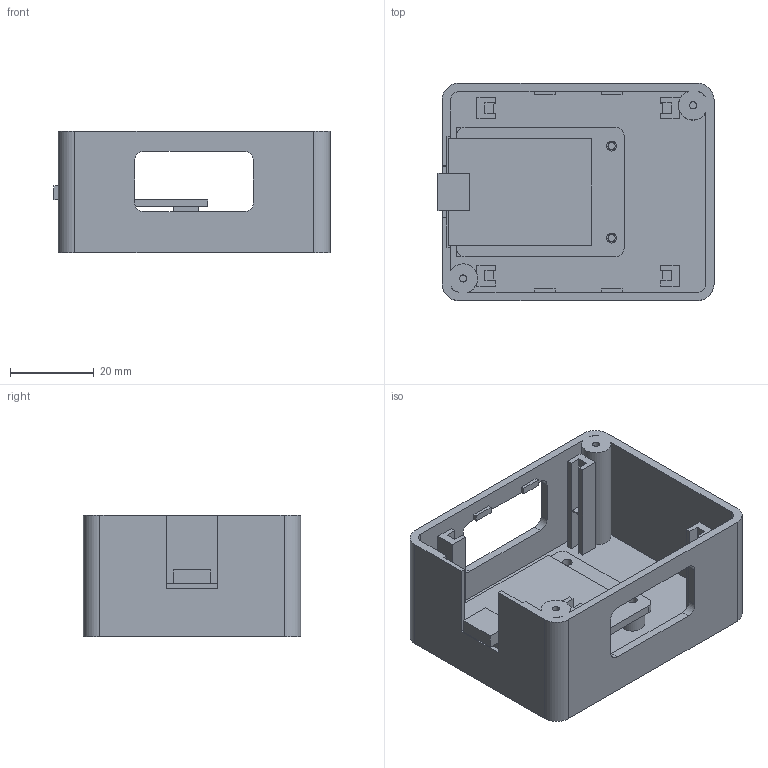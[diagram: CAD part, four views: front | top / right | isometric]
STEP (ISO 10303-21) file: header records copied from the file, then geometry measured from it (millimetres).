
FILE_DESCRIPTION(('Open CASCADE Model'),'2;1');
FILE_NAME('Open CASCADE Shape Model','2026-11-08T17:26:57',('Author'),( 'Open CASCADE'),'Open CASCADE STEP processor 7.8','Open CASCADE 7.8' ,'Unknown');
FILE_SCHEMA(('AUTOMOTIVE_DESIGN { 1 0 10303 214 1 1 1 1 }'));
Length unit declared in the file: millimetre
Products named in the file (5): Enveloppes_nominales_non_imprimables; socle; support_ESP; carte_nominale; USB_nominal
Assembly tree (4 placements, depth 2):
  Enveloppes_nominales_non_imprimables
    socle
    support_ESP
    carte_nominale
    USB_nominal
Bounding box: 66 x 52 x 29 mm (x, y, z)
Volume: 23823.5 mm3; surface area: 25280 mm2
Topology: 4 solids, 4 shells, 192 faces, 504 edges, 336 vertices
Faces by surface type: plane 156, cylinder 36
Full cylindrical faces by diameter (mm): 1.7 x4, 2.4 x2, 6 x2
Entity records: 12239 total; most frequent: CARTESIAN_POINT 2516, DIRECTION 1621, LINE 1021, VECTOR 1021, ORIENTED_EDGE 1008, PCURVE 1008, DEFINITIONAL_REPRESENTATION 1008, EDGE_CURVE 504
